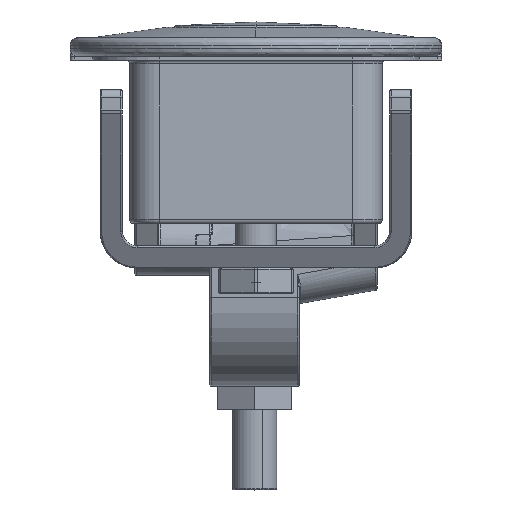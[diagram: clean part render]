
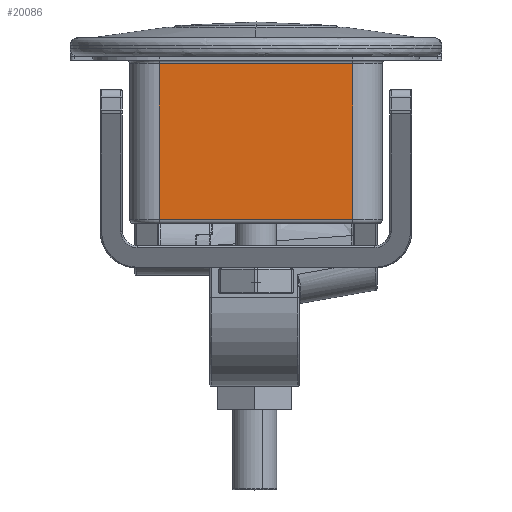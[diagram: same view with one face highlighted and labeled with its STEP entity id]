
A CAD part, front view. The second image highlights one B-rep face of the part: STEP entity #20086.
In plain terms, the highlighted planar face has unit normal (0, -1, 0) as drawn and (1, 0, 0) by its records, which use the part's own axes.
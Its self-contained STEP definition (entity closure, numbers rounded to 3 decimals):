
#3189 = AXIS2_PLACEMENT_3D ( 'NONE', #20405, #7296, #30375 ) ;
#3983 = PLANE ( 'NONE',  #3189 ) ;
#5536 = VECTOR ( 'NONE', #40583, 1000. ) ;
#6216 = VERTEX_POINT ( 'NONE', #26857 ) ;
#7296 = DIRECTION ( 'NONE',  ( 1., 0., 0. ) ) ;
#8420 = CARTESIAN_POINT ( 'NONE',  ( 46.526, -48.657, 13.644 ) ) ;
#10597 = VERTEX_POINT ( 'NONE', #33026 ) ;
#11225 = VERTEX_POINT ( 'NONE', #8420 ) ;
#11637 = EDGE_CURVE ( 'NONE', #17511, #10597, #24426, .T. ) ;
#17511 = VERTEX_POINT ( 'NONE', #39043 ) ;
#17556 = DIRECTION ( 'NONE',  ( 0., 0., 1. ) ) ;
#18144 = EDGE_CURVE ( 'NONE', #6216, #10597, #30514, .T. ) ;
#19240 = DIRECTION ( 'NONE',  ( 0., 0., 1. ) ) ;
#20086 = ADVANCED_FACE ( 'NONE', ( #32468 ), #3983, .T. ) ;
#20405 = CARTESIAN_POINT ( 'NONE',  ( 46.526, -79.657, 35.144 ) ) ;
#21619 = ORIENTED_EDGE ( 'NONE', *, *, #31022, .T. ) ;
#23072 = LINE ( 'NONE', #23655, #5536 ) ;
#23655 = CARTESIAN_POINT ( 'NONE',  ( 46.526, -61.657, 13.644 ) ) ;
#24426 = LINE ( 'NONE', #33775, #39937 ) ;
#25910 = CARTESIAN_POINT ( 'NONE',  ( 46.526, -48.657, 24.144 ) ) ;
#26857 = CARTESIAN_POINT ( 'NONE',  ( 46.526, -74.657, 13.644 ) ) ;
#29485 = VECTOR ( 'NONE', #17556, 1000. ) ;
#30375 = DIRECTION ( 'NONE',  ( 0., 0., -1. ) ) ;
#30514 = LINE ( 'NONE', #40705, #29485 ) ;
#30518 = ORIENTED_EDGE ( 'NONE', *, *, #38613, .F. ) ;
#31022 = EDGE_CURVE ( 'NONE', #11225, #17511, #35189, .T. ) ;
#32468 = FACE_OUTER_BOUND ( 'NONE', #34750, .T. ) ;
#33026 = CARTESIAN_POINT ( 'NONE',  ( 46.526, -74.657, 34.644 ) ) ;
#33775 = CARTESIAN_POINT ( 'NONE',  ( 46.526, -61.657, 34.644 ) ) ;
#34220 = ORIENTED_EDGE ( 'NONE', *, *, #11637, .T. ) ;
#34750 = EDGE_LOOP ( 'NONE', ( #30518, #21619, #34220, #35403 ) ) ;
#35189 = LINE ( 'NONE', #25910, #41944 ) ;
#35403 = ORIENTED_EDGE ( 'NONE', *, *, #18144, .F. ) ;
#37148 = DIRECTION ( 'NONE',  ( 0., -1., 0. ) ) ;
#38613 = EDGE_CURVE ( 'NONE', #11225, #6216, #23072, .T. ) ;
#39043 = CARTESIAN_POINT ( 'NONE',  ( 46.526, -48.657, 34.644 ) ) ;
#39937 = VECTOR ( 'NONE', #37148, 1000. ) ;
#40583 = DIRECTION ( 'NONE',  ( 0., -1., 0. ) ) ;
#40705 = CARTESIAN_POINT ( 'NONE',  ( 46.526, -74.657, 24.144 ) ) ;
#41944 = VECTOR ( 'NONE', #19240, 1000. ) ;
